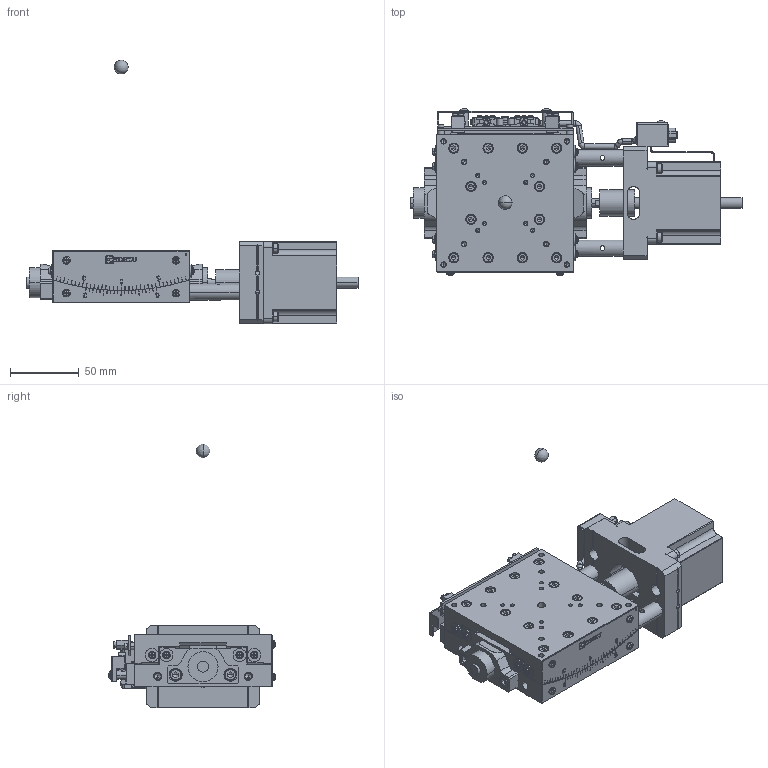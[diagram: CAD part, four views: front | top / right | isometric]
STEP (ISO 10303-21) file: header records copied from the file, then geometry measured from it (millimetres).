
FILE_DESCRIPTION( (''), '2;1');
FILE_NAME ('MVSA10A-RM01.stp','2021-03-16T10:47:18',(''),(''),'spGate 15.6.6','','');
FILE_SCHEMA (('AUTOMOTIVE_DESIGN'));
Length unit declared in the file: millimetre
Products named in the file (4): Assembly; MVSA10A-RM01-prt0; MVSA10A-RM01-prt1; MVSA10A-RM01-prt2
Assembly tree (3 placements, depth 2):
  Assembly
    MVSA10A-RM01-prt0
    MVSA10A-RM01-prt1
    MVSA10A-RM01-prt2
Bounding box: 242.3 x 121.67 x 192.3 mm (x, y, z)
Volume: 659549.3 mm3; surface area: 140890.4 mm2
Topology: 3 solids, 3 shells, 3635 faces, 9163 edges, 5642 vertices
Faces by surface type: plane 2044, cylinder 971, bspline 547, sphere 73
Entity records: 185820 total; most frequent: CARTESIAN_POINT 29912, ORIENTED_EDGE 17970, DIRECTION 16625, COLOUR_RGB 12623, PRESENTATION_STYLE_ASSIGNMENT 12623, STYLED_ITEM 12623, EDGE_CURVE 8985, DRAUGHTING_PRE_DEFINED_CURVE_FONT 8985
